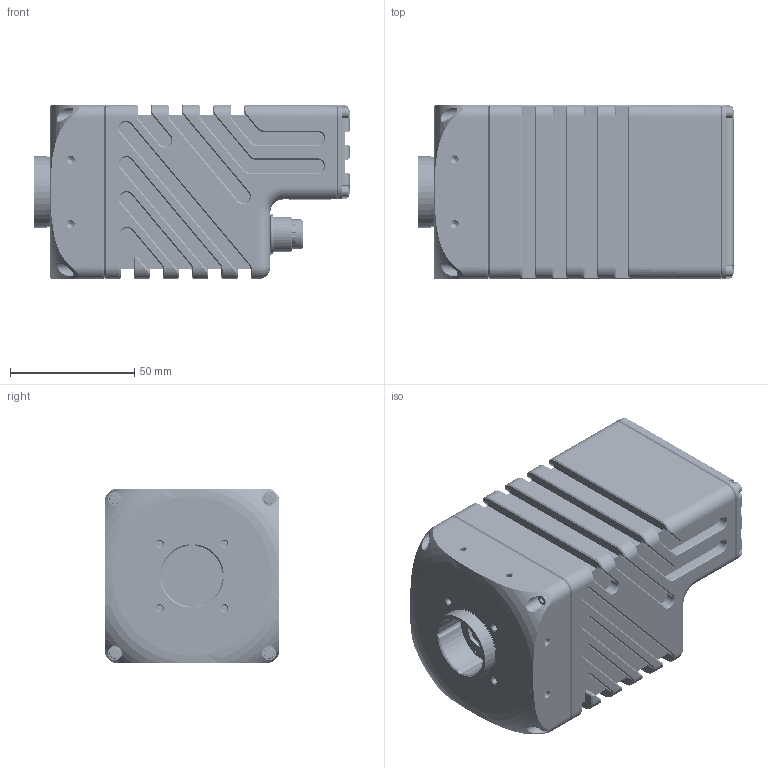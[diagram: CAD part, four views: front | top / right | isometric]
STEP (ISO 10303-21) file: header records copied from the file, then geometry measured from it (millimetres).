
FILE_DESCRIPTION(/* description */ ('Unknown'),/* implementation_level */ '2;1');
FILE_NAME(/* name */ '11702238_VAX-32.M.I.NVN',/* time_stamp */ '2021-04-19T13:46:49+02:00',/* author */ ('Unknown'),/* organization */ ('Baumer'),/* preprocessor_version */ 'ST-DEVELOPER v16.7',/* originating_system */ 'Solid Edge',/* authorisation */ 'Unknown');
FILE_SCHEMA (('AUTOMOTIVE_DESIGN {1 0 10303 214 3 1 1}'));
Products named in the file (1): DBG VAX-32.M.I.NVN STEP.asm
Bounding box: 126.62 x 70 x 70 mm (x, y, z)
Volume: 172409.2 mm3; surface area: 104538.9 mm2
Topology: 15 solids, 96 shells, 7710 faces, 20896 edges, 13612 vertices
Faces by surface type: plane 4938, cylinder 2233, cone 197, torus 157, bspline 119, sphere 66
Full cylindrical faces by diameter (mm): 0.2 x2, 0.217 x2, 0.35 x1, 0.5 x4, 0.6 x239, 0.63 x12, 0.7 x32, 0.75 x3, 0.8 x9, 0.85 x1, 1 x3, 1.075 x2, 1.1 x14, 1.221 x2, 1.24 x8, 1.25 x17, 1.4 x2, 1.6 x2, 2 x6, 2.013 x28, 2.3 x4, 2.459 x24, 2.5 x8, 2.7 x8, 2.8 x2, 2.92 x2, 3 x2, 3.4 x2, 3.5 x2, 4.5 x8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
Entity records: 282297 total; most frequent: CARTESIAN_POINT 47825, ORIENTED_EDGE 39388, DIRECTION 39002, EDGE_CURVE 19694, LINE 13884, VECTOR 13884, VERTEX_POINT 13121, AXIS2_PLACEMENT_3D 12559
